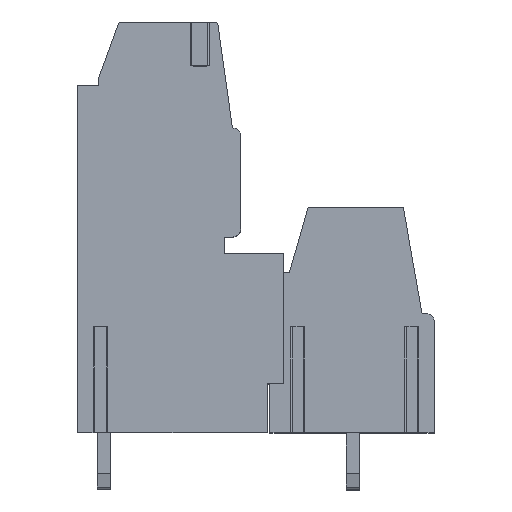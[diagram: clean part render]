
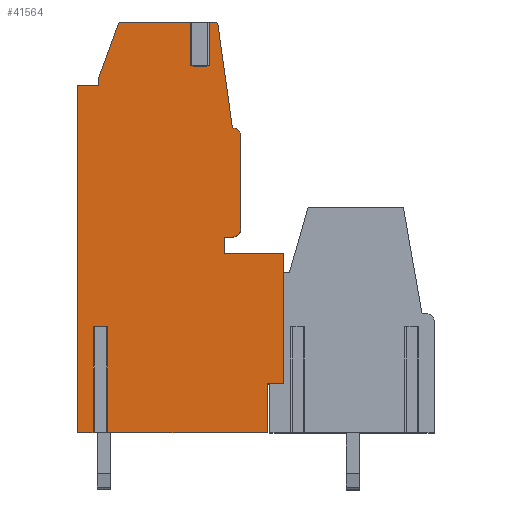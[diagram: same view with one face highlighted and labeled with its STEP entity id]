
A CAD part, top view. The second image highlights one B-rep face of the part: STEP entity #41564.
In plain terms, the highlighted planar face has unit normal (0, 0, 1).
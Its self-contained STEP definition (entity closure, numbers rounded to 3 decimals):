
#4804=DIRECTION('',(0.,-1.,0.));
#4805=VECTOR('',#4804,8.);
#4806=CARTESIAN_POINT('',(0.84,11.,2.5));
#4807=LINE('',#4806,#4805);
#4905=DIRECTION('',(1.,0.,0.));
#4906=VECTOR('',#4905,3.64);
#4907=CARTESIAN_POINT('',(-2.8,11.,2.5));
#4908=LINE('',#4907,#4906);
#4913=DIRECTION('',(-0.342,-0.94,0.));
#4914=VECTOR('',#4913,3.478);
#4915=CARTESIAN_POINT('',(-9.31,25.068,2.5));
#4916=LINE('',#4915,#4914);
#4917=CARTESIAN_POINT('',(-9.122,25.,2.5));
#4918=DIRECTION('',(0.,0.,1.));
#4919=DIRECTION('',(0.,1.,0.));
#4920=AXIS2_PLACEMENT_3D('',#4917,#4918,#4919);
#4922=CARTESIAN_POINT('',(-3.387,25.,2.5));
#4923=DIRECTION('',(0.,0.,1.));
#4924=DIRECTION('',(0.99,0.139,0.));
#4925=AXIS2_PLACEMENT_3D('',#4922,#4923,#4924);
#4927=DIRECTION('',(-0.139,0.99,0.));
#4928=VECTOR('',#4927,6.39);
#4929=CARTESIAN_POINT('',(-2.3,18.7,2.5));
#4930=LINE('',#4929,#4928);
#4931=CARTESIAN_POINT('',(-2.3,18.2,2.5));
#4932=DIRECTION('',(0.,0.,1.));
#4933=DIRECTION('',(1.,0.,0.));
#4934=AXIS2_PLACEMENT_3D('',#4931,#4932,#4933);
#4936=CARTESIAN_POINT('',(-2.3,12.5,2.5));
#4937=DIRECTION('',(0.,0.,1.));
#4938=DIRECTION('',(0.,-1.,0.));
#4939=AXIS2_PLACEMENT_3D('',#4936,#4937,#4938);
#4941=DIRECTION('',(0.,1.,0.));
#4942=VECTOR('',#4941,6.5);
#4943=CARTESIAN_POINT('',(-9.945,0.,2.5));
#4944=LINE('',#4943,#4942);
#4954=DIRECTION('',(-1.,0.,0.));
#4955=VECTOR('',#4954,0.911);
#4956=CARTESIAN_POINT('',(-9.945,6.5,2.5));
#4957=LINE('',#4956,#4955);
#4981=DIRECTION('',(0.,-1.,0.));
#4982=VECTOR('',#4981,6.5);
#4983=CARTESIAN_POINT('',(-10.855,6.5,2.5));
#4984=LINE('',#4983,#4982);
#4998=DIRECTION('',(-1.,0.,0.));
#4999=VECTOR('',#4998,9.785);
#5000=CARTESIAN_POINT('',(-0.16,0.,2.5));
#5001=LINE('',#5000,#4999);
#5046=DIRECTION('',(-1.,0.,0.));
#5047=VECTOR('',#5046,0.945);
#5048=CARTESIAN_POINT('',(-10.855,0.,2.5));
#5049=LINE('',#5048,#5047);
#9376=DIRECTION('',(0.,1.,0.));
#9377=VECTOR('',#9376,0.5);
#9378=CARTESIAN_POINT('',(-10.5,21.3,2.5));
#9379=LINE('',#9378,#9377);
#13902=DIRECTION('',(1.,0.,0.));
#13903=VECTOR('',#13902,0.51);
#13904=CARTESIAN_POINT('',(-3.897,25.2,2.5));
#13905=LINE('',#13904,#13903);
#13934=DIRECTION('',(1.,0.,0.));
#13935=VECTOR('',#13934,4.42);
#13936=CARTESIAN_POINT('',(-9.122,25.2,2.5));
#13937=LINE('',#13936,#13935);
#15070=DIRECTION('',(0.,-1.,0.));
#15071=VECTOR('',#15070,5.7);
#15072=CARTESIAN_POINT('',(-1.8,18.2,2.5));
#15073=LINE('',#15072,#15071);
#15370=DIRECTION('',(-1.,0.,0.));
#15371=VECTOR('',#15370,0.5);
#15372=CARTESIAN_POINT('',(-2.3,12.,2.5));
#15373=LINE('',#15372,#15371);
#15378=DIRECTION('',(0.,-1.,0.));
#15379=VECTOR('',#15378,1.);
#15380=CARTESIAN_POINT('',(-2.8,12.,2.5));
#15381=LINE('',#15380,#15379);
#19512=DIRECTION('',(0.,1.,0.));
#19513=VECTOR('',#19512,2.7);
#19514=CARTESIAN_POINT('',(-3.897,22.5,2.5));
#19515=LINE('',#19514,#19513);
#19525=DIRECTION('',(1.,0.,0.));
#19526=VECTOR('',#19525,0.805);
#19527=CARTESIAN_POINT('',(-4.703,22.5,2.5));
#19528=LINE('',#19527,#19526);
#19552=DIRECTION('',(0.,-1.,0.));
#19553=VECTOR('',#19552,2.7);
#19554=CARTESIAN_POINT('',(-4.703,25.2,2.5));
#19555=LINE('',#19554,#19553);
#20194=DIRECTION('',(1.,0.,0.));
#20195=VECTOR('',#20194,1.3);
#20196=CARTESIAN_POINT('',(-11.8,21.3,2.5));
#20197=LINE('',#20196,#20195);
#20210=DIRECTION('',(0.,1.,0.));
#20211=VECTOR('',#20210,21.3);
#20212=CARTESIAN_POINT('',(-11.8,0.,2.5));
#20213=LINE('',#20212,#20211);
#21088=DIRECTION('',(0.,-1.,0.));
#21089=VECTOR('',#21088,3.);
#21090=CARTESIAN_POINT('',(-0.16,3.,2.5));
#21091=LINE('',#21090,#21089);
#28975=DIRECTION('',(-1.,0.,0.));
#28976=VECTOR('',#28975,1.);
#28977=CARTESIAN_POINT('',(0.84,3.,2.5));
#28978=LINE('',#28977,#28976);
#32935=CARTESIAN_POINT('',(-9.945,6.5,2.5));
#32936=CARTESIAN_POINT('',(-10.855,6.5,2.5));
#32937=VERTEX_POINT('',#32935);
#32938=VERTEX_POINT('',#32936);
#32939=CARTESIAN_POINT('',(-10.855,0.,2.5));
#32940=VERTEX_POINT('',#32939);
#32941=CARTESIAN_POINT('',(-11.8,0.,2.5));
#32942=VERTEX_POINT('',#32941);
#32943=CARTESIAN_POINT('',(-11.8,21.3,2.5));
#32944=VERTEX_POINT('',#32943);
#32945=CARTESIAN_POINT('',(-10.5,21.3,2.5));
#32946=VERTEX_POINT('',#32945);
#32947=CARTESIAN_POINT('',(-10.5,21.8,2.5));
#32948=VERTEX_POINT('',#32947);
#32949=CARTESIAN_POINT('',(-9.31,25.068,2.5));
#32950=VERTEX_POINT('',#32949);
#32951=CARTESIAN_POINT('',(-9.122,25.2,2.5));
#32952=VERTEX_POINT('',#32951);
#32953=CARTESIAN_POINT('',(-4.703,25.2,2.5));
#32954=VERTEX_POINT('',#32953);
#32955=CARTESIAN_POINT('',(-4.703,22.5,2.5));
#32956=VERTEX_POINT('',#32955);
#32957=CARTESIAN_POINT('',(-3.897,22.5,2.5));
#32958=VERTEX_POINT('',#32957);
#32959=CARTESIAN_POINT('',(-3.897,25.2,2.5));
#32960=VERTEX_POINT('',#32959);
#32961=CARTESIAN_POINT('',(-3.387,25.2,2.5));
#32962=VERTEX_POINT('',#32961);
#32963=CARTESIAN_POINT('',(-3.189,25.028,2.5));
#32964=VERTEX_POINT('',#32963);
#32965=CARTESIAN_POINT('',(-2.3,18.7,2.5));
#32966=VERTEX_POINT('',#32965);
#32967=CARTESIAN_POINT('',(-1.8,18.2,2.5));
#32968=VERTEX_POINT('',#32967);
#32969=CARTESIAN_POINT('',(-1.8,12.5,2.5));
#32970=VERTEX_POINT('',#32969);
#32971=CARTESIAN_POINT('',(-2.3,12.,2.5));
#32972=VERTEX_POINT('',#32971);
#32973=CARTESIAN_POINT('',(-2.8,12.,2.5));
#32974=VERTEX_POINT('',#32973);
#32975=CARTESIAN_POINT('',(-2.8,11.,2.5));
#32976=VERTEX_POINT('',#32975);
#32977=CARTESIAN_POINT('',(0.84,11.,2.5));
#32978=VERTEX_POINT('',#32977);
#32979=CARTESIAN_POINT('',(0.84,3.,2.5));
#32980=VERTEX_POINT('',#32979);
#32981=CARTESIAN_POINT('',(-0.16,3.,2.5));
#32982=VERTEX_POINT('',#32981);
#32983=CARTESIAN_POINT('',(-0.16,0.,2.5));
#32984=VERTEX_POINT('',#32983);
#32985=CARTESIAN_POINT('',(-9.945,0.,2.5));
#32986=VERTEX_POINT('',#32985);
#41507=CARTESIAN_POINT('',(-6.5,0.,2.5));
#41508=DIRECTION('',(0.,0.,1.));
#41509=DIRECTION('',(1.,0.,0.));
#41510=AXIS2_PLACEMENT_3D('',#41507,#41508,#41509);
#41511=PLANE('',#41510);
#41513=ORIENTED_EDGE('',*,*,#41512,.T.);
#41515=ORIENTED_EDGE('',*,*,#41514,.T.);
#41517=ORIENTED_EDGE('',*,*,#41516,.T.);
#41519=ORIENTED_EDGE('',*,*,#41518,.T.);
#41521=ORIENTED_EDGE('',*,*,#41520,.T.);
#41523=ORIENTED_EDGE('',*,*,#41522,.T.);
#41525=ORIENTED_EDGE('',*,*,#41524,.T.);
#41527=ORIENTED_EDGE('',*,*,#41526,.F.);
#41529=ORIENTED_EDGE('',*,*,#41528,.F.);
#41531=ORIENTED_EDGE('',*,*,#41530,.T.);
#41533=ORIENTED_EDGE('',*,*,#41532,.T.);
#41535=ORIENTED_EDGE('',*,*,#41534,.T.);
#41537=ORIENTED_EDGE('',*,*,#41536,.T.);
#41539=ORIENTED_EDGE('',*,*,#41538,.T.);
#41541=ORIENTED_EDGE('',*,*,#41540,.F.);
#41543=ORIENTED_EDGE('',*,*,#41542,.F.);
#41545=ORIENTED_EDGE('',*,*,#41544,.F.);
#41547=ORIENTED_EDGE('',*,*,#41546,.T.);
#41549=ORIENTED_EDGE('',*,*,#41548,.F.);
#41551=ORIENTED_EDGE('',*,*,#41550,.T.);
#41553=ORIENTED_EDGE('',*,*,#41552,.T.);
#41554=ORIENTED_EDGE('',*,*,#41498,.T.);
#41555=ORIENTED_EDGE('',*,*,#41381,.T.);
#41557=ORIENTED_EDGE('',*,*,#41556,.T.);
#41559=ORIENTED_EDGE('',*,*,#41558,.T.);
#41561=ORIENTED_EDGE('',*,*,#41560,.T.);
#41562=EDGE_LOOP('',(#41513,#41515,#41517,#41519,#41521,#41523,#41525,#41527,
#41529,#41531,#41533,#41535,#41537,#41539,#41541,#41543,#41545,#41547,#41549,
#41551,#41553,#41554,#41555,#41557,#41559,#41561));
#41563=FACE_OUTER_BOUND('',#41562,.F.);
#41564=ADVANCED_FACE('',(#41563),#41511,.T.);
#4921=CIRCLE('',#4920,0.2);
#4926=CIRCLE('',#4925,0.2);
#4935=CIRCLE('',#4934,0.5);
#4940=CIRCLE('',#4939,0.5);
#41381=EDGE_CURVE('',#32978,#32980,#4807,.T.);
#41498=EDGE_CURVE('',#32976,#32978,#4908,.T.);
#41512=EDGE_CURVE('',#32986,#32937,#4944,.T.);
#41514=EDGE_CURVE('',#32937,#32938,#4957,.T.);
#41516=EDGE_CURVE('',#32938,#32940,#4984,.T.);
#41518=EDGE_CURVE('',#32940,#32942,#5049,.T.);
#41520=EDGE_CURVE('',#32942,#32944,#20213,.T.);
#41522=EDGE_CURVE('',#32944,#32946,#20197,.T.);
#41524=EDGE_CURVE('',#32946,#32948,#9379,.T.);
#41526=EDGE_CURVE('',#32950,#32948,#4916,.T.);
#41528=EDGE_CURVE('',#32952,#32950,#4921,.T.);
#41530=EDGE_CURVE('',#32952,#32954,#13937,.T.);
#41532=EDGE_CURVE('',#32954,#32956,#19555,.T.);
#41534=EDGE_CURVE('',#32956,#32958,#19528,.T.);
#41536=EDGE_CURVE('',#32958,#32960,#19515,.T.);
#41538=EDGE_CURVE('',#32960,#32962,#13905,.T.);
#41540=EDGE_CURVE('',#32964,#32962,#4926,.T.);
#41542=EDGE_CURVE('',#32966,#32964,#4930,.T.);
#41544=EDGE_CURVE('',#32968,#32966,#4935,.T.);
#41546=EDGE_CURVE('',#32968,#32970,#15073,.T.);
#41548=EDGE_CURVE('',#32972,#32970,#4940,.T.);
#41550=EDGE_CURVE('',#32972,#32974,#15373,.T.);
#41552=EDGE_CURVE('',#32974,#32976,#15381,.T.);
#41556=EDGE_CURVE('',#32980,#32982,#28978,.T.);
#41558=EDGE_CURVE('',#32982,#32984,#21091,.T.);
#41560=EDGE_CURVE('',#32984,#32986,#5001,.T.);
